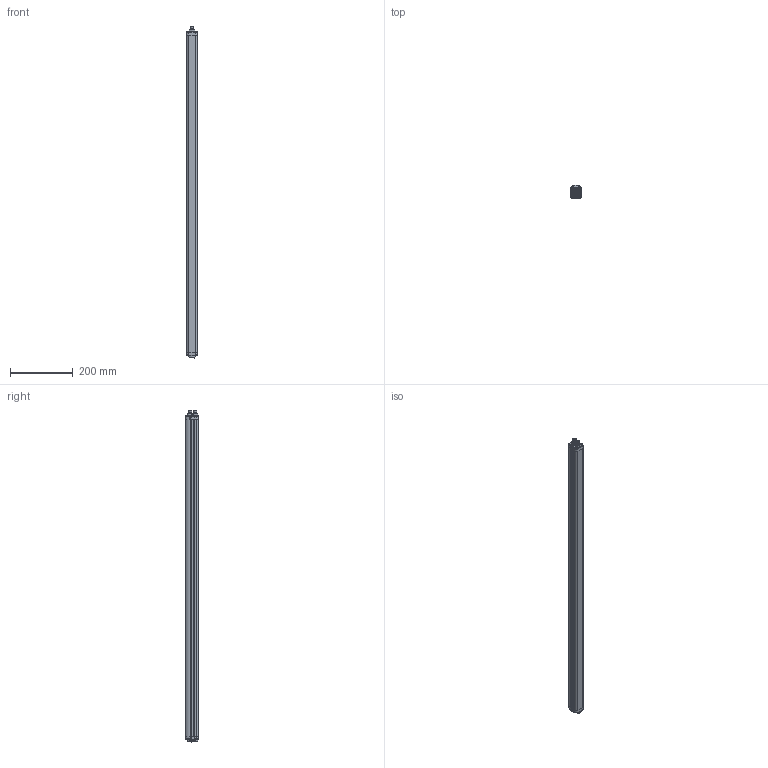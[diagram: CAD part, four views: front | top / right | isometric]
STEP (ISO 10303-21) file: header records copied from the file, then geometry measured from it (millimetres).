
FILE_DESCRIPTION((''),'2;1');
FILE_NAME('2013528','2013-11-22T',('rink'),(''),'PRO/ENGINEER BY PARAMETRIC TECHNOLOGY CORPORATION, 2011040','PRO/ENGINEER BY PARAMETRIC TECHNOLOGY CORPORATION, 2011040','');
FILE_SCHEMA(('AUTOMOTIVE_DESIGN_CC2 { 1 2 10303 214 -1 1 5 2 }'));
Products named in the file (1): 2013528
Bounding box: 35 x 40.94 x 1062.5 mm (x, y, z)
Volume: 1298088.9 mm3; surface area: 190821.4 mm2
Topology: 1 solids, 1 shells, 1603 faces, 3702 edges, 2073 vertices
Faces by surface type: bspline 494, cylinder 362, plane 344, torus 198, sphere 96, extrusion 91, cone 18
Entity records: 63910 total; most frequent: CARTESIAN_POINT 32233, ORIENTED_EDGE 7238, DIRECTION 5462, EDGE_CURVE 3619, AXIS2_PLACEMENT_3D 2108, VERTEX_POINT 2067, EDGE_LOOP 1666, FACE_OUTER_BOUND 1603
